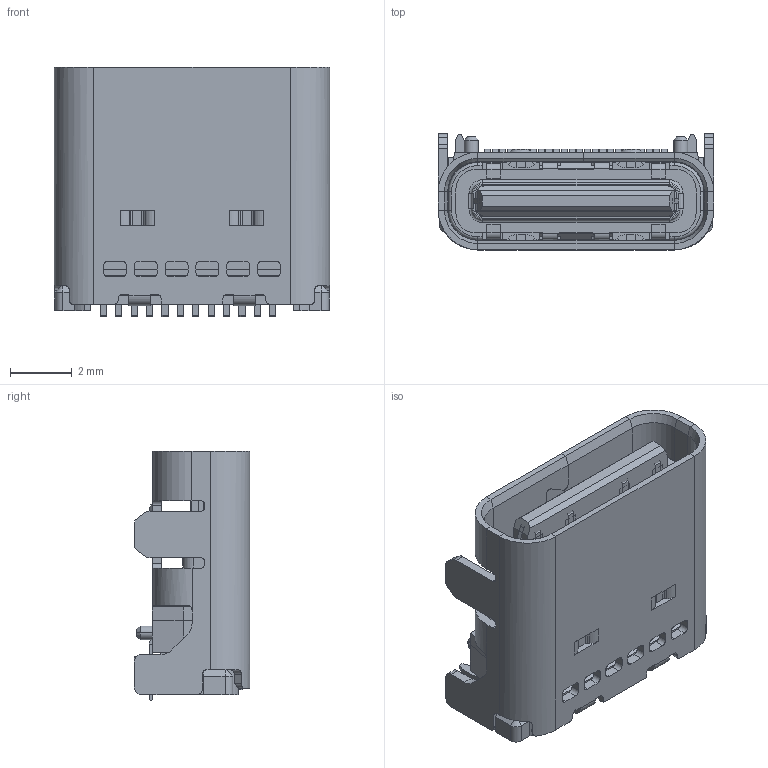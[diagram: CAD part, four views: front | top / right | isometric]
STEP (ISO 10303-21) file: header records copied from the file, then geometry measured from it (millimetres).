
FILE_DESCRIPTION((''),'2;1');
FILE_NAME('USB_TYPECF24P_SMT_ASM','2021-11-23T',('Administrator'),(''),'PRO/ENGINEER BY PARAMETRIC TECHNOLOGY CORPORATION, 2010280','PRO/ENGINEER BY PARAMETRIC TECHNOLOGY CORPORATION, 2010280','');
FILE_SCHEMA(('CONFIG_CONTROL_DESIGN'));
Length unit declared in the file: millimetre
Products named in the file (52): MANIFOLD_SOLID_BREP_2531; MANIFOLD_SOLID_BREP_2532; MANIFOLD_SOLID_BREP_2533; MANIFOLD_SOLID_BREP_2534; MANIFOLD_SOLID_BREP_2535; MANIFOLD_SOLID_BREP_2536; MANIFOLD_SOLID_BREP_2537; MANIFOLD_SOLID_BREP_2538; MANIFOLD_SOLID_BREP_2539; MANIFOLD_SOLID_BREP_2540; MANIFOLD_SOLID_BREP_2541; MANIFOLD_SOLID_BREP_2542; MANIFOLD_SOLID_BREP_2543; MANIFOLD_SOLID_BREP_2544; MANIFOLD_SOLID_BREP_2545; MANIFOLD_SOLID_BREP_2546; MANIFOLD_SOLID_BREP_2547; MANIFOLD_SOLID_BREP_2548; MANIFOLD_SOLID_BREP_2549; MANIFOLD_SOLID_BREP_2550; MANIFOLD_SOLID_BREP_2552; MANIFOLD_SOLID_BREP_2554; MANIFOLD_SOLID_BREP_2555; MANIFOLD_SOLID_BREP_2556; MANIFOLD_SOLID_BREP_2557; MANIFOLD_SOLID_BREP_2561; MANIFOLD_SOLID_BREP_2562; MANIFOLD_SOLID_BREP_2563; MANIFOLD_SOLID_BREP_2564; MANIFOLD_SOLID_BREP_2565; MANIFOLD_SOLID_BREP_2566; MANIFOLD_SOLID_BREP_2567; MANIFOLD_SOLID_BREP_2568; MANIFOLD_SOLID_BREP_2569; MANIFOLD_SOLID_BREP_2570; MANIFOLD_SOLID_BREP_2571; MANIFOLD_SOLID_BREP_2572; MANIFOLD_SOLID_BREP_2573; MANIFOLD_SOLID_BREP_2574; MANIFOLD_SOLID_BREP_2575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
Assembly tree (51 placements, depth 3):
  USB_TYPECF24P_SMT_ASM
    CP-CH00-5_ASM
      MANIFOLD_SOLID_BREP_2531
      MANIFOLD_SOLID_BREP_2532
      MANIFOLD_SOLID_BREP_2533
      MANIFOLD_SOLID_BREP_2534
      MANIFOLD_SOLID_BREP_2535
      MANIFOLD_SOLID_BREP_2536
      MANIFOLD_SOLID_BREP_2537
      MANIFOLD_SOLID_BREP_2538
      MANIFOLD_SOLID_BREP_2539
      MANIFOLD_SOLID_BREP_2540
      MANIFOLD_SOLID_BREP_2541
      MANIFOLD_SOLID_BREP_2542
      MANIFOLD_SOLID_BREP_2543
      MANIFOLD_SOLID_BREP_2544
      MANIFOLD_SOLID_BREP_2545
      MANIFOLD_SOLID_BREP_2546
      MANIFOLD_SOLID_BREP_2547
      MANIFOLD_SOLID_BREP_2548
      MANIFOLD_SOLID_BREP_2549
      MANIFOLD_SOLID_BREP_2550
      MANIFOLD_SOLID_BREP_2552
      MANIFOLD_SOLID_BREP_2554
      MANIFOLD_SOLID_BREP_2555
      MANIFOLD_SOLID_BREP_2556
      MANIFOLD_SOLID_BREP_2557
      MANIFOLD_SOLID_BREP_2561
      MANIFOLD_SOLID_BREP_2562
      MANIFOLD_SOLID_BREP_2563
      MANIFOLD_SOLID_BREP_2564
      MANIFOLD_SOLID_BREP_2565
      MANIFOLD_SOLID_BREP_2566
      MANIFOLD_SOLID_BREP_2567
      MANIFOLD_SOLID_BREP_2568
      MANIFOLD_SOLID_BREP_2569
      MANIFOLD_SOLID_BREP_2570
      MANIFOLD_SOLID_BREP_2571
      MANIFOLD_SOLID_BREP_2572
      MANIFOLD_SOLID_BREP_2573
      MANIFOLD_SOLID_BREP_2574
      MANIFOLD_SOLID_BREP_2575
      MANIFOLD_SOLID_BREP_2576
      MANIFOLD_SOLID_BREP_2577
      MANIFOLD_SOLID_BREP_2578
      MANIFOLD_SOLID_BREP_2579
      MANIFOLD_SOLID_BREP_2580
      MANIFOLD_SOLID_BREP_2581
      MANIFOLD_SOLID_BREP_2582
      MANIFOLD_SOLID_BREP_2583
      MANIFOLD_SOLID_BREP_2584
      MANIFOLD_SOLID_BREP_2585
Bounding box: 8.94 x 3.76 x 8.1 mm (x, y, z)
Volume: 146.9 mm3; surface area: 998.5 mm2
Topology: 50 solids, 50 shells, 2333 faces, 5932 edges, 3698 vertices
Faces by surface type: plane 1711, cylinder 556, cone 28, torus 18, extrusion 16, bspline 4
Entity records: 70907 total; most frequent: CARTESIAN_POINT 12705, DIRECTION 12018, ORIENTED_EDGE 11864, EDGE_CURVE 5932, VECTOR 4658, LINE 4642, VERTEX_POINT 3698, AXIS2_PLACEMENT_3D 3680
